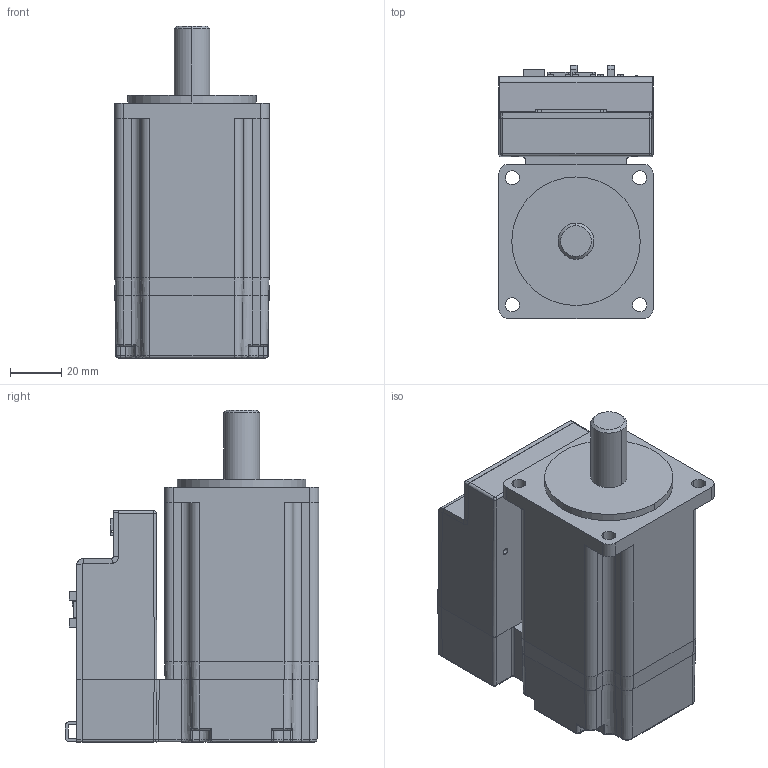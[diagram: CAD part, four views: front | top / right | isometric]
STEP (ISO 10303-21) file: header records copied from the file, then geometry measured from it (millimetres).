
FILE_DESCRIPTION (( 'STEP AP214' ), '1' );
FILE_NAME ('MD60(200W).STEP', '2021-01-05T19:52:04', ( '' ), ( '' ), 'SwSTEP 2.0', 'SolidWorks 2020', '' );
FILE_SCHEMA (( 'AUTOMOTIVE_DESIGN' ));
Length unit declared in the file: inch
Products named in the file (24): REAR_COVER_ASM_71_ASM; TIM_PCB1_42; CJTA2008WV-4P_42_1; PC_7MM_46; COVER_ASM_37_ASM; PCA_ASM_50_ASM; 19717_34; PCA1_ASM_50_ASM; 0001_ASM_187_ASM; B16B-PUDSS-1_13; ZLH-100V330UF_34; MOTOR_33; MD60(200W); 0226-22XX_35; PUDP-16V-S_13; XJ_7; B04B-ZESK-D_16; MD60PCB2_50; CJTA2008WV-4P_42_ASM; MD60HT_2019_01_08_53; COVER-1_40; CJTA2008WV-4P_42_2; PCB1_51; B12B-PUDSS-1_16
Assembly tree (25 placements, depth 6):
  MD60(200W)
    0001_ASM_187_ASM
      REAR_COVER_ASM_71_ASM
        MOTOR_33
        PC_7MM_46
        TIM_PCB1_42
        PCA_ASM_50_ASM
          PCA1_ASM_50_ASM
            PCB1_51
            MD60PCB2_50
            B12B-PUDSS-1_16
          CJTA2008WV-4P_42_ASM
            CJTA2008WV-4P_42_1
            CJTA2008WV-4P_42_2
          ZLH-100V330UF_34
          0226-22XX_35
          19717_34
          B04B-ZESK-D_16  x2
          B16B-PUDSS-1_13
          PUDP-16V-S_13
        COVER_ASM_37_ASM
          COVER-1_40
          XJ_7  x2
      MD60HT_2019_01_08_53
Bounding box: 60 x 98.61 x 129.2 mm (x, y, z)
Volume: 368641 mm3; surface area: 121837.3 mm2
Topology: 19 solids, 19 shells, 2198 faces, 5563 edges, 3625 vertices
Faces by surface type: plane 1511, cylinder 478, bspline 142, cone 66, torus 1
Entity records: 73245 total; most frequent: CARTESIAN_POINT 21885, ORIENTED_EDGE 10776, DIRECTION 9555, EDGE_CURVE 5388, LINE 4005, VECTOR 4005, VERTEX_POINT 3513, AXIS2_PLACEMENT_3D 2775
